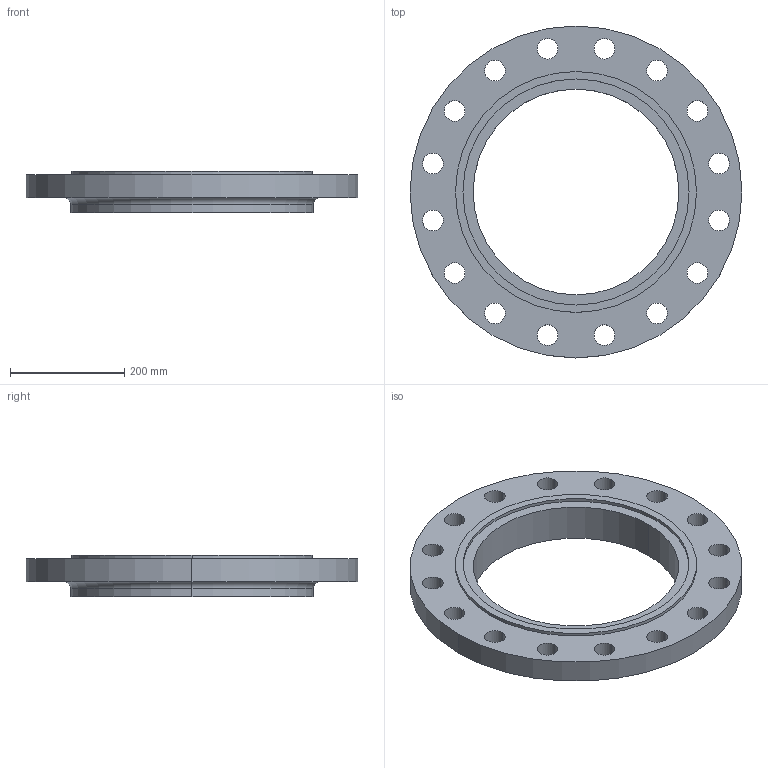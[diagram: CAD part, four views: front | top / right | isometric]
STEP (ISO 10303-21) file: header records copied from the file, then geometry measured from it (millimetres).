
FILE_DESCRIPTION (( 'STEP AP214' ), '1' );
FILE_NAME ('PN40 DN350 Type 12 - Type C Face.STEP', '2019-01-05T21:51:26', ( '' ), ( '' ), 'SwSTEP 2.0', 'SolidWorks 2019', '' );
FILE_SCHEMA (( 'AUTOMOTIVE_DESIGN' ));
Length unit declared in the file: millimetre
Products named in the file (1): PN40 DN350 Type 12 - Type C Face
Bounding box: 580 x 580 x 72 mm (x, y, z)
Volume: 7095171.5 mm3; surface area: 556958 mm2
Topology: 1 solids, 1 shells, 49 faces, 130 edges, 86 vertices
Faces by surface type: cylinder 42, plane 5, torus 2
Entity records: 1678 total; most frequent: DIRECTION 318, CARTESIAN_POINT 266, ORIENTED_EDGE 260, AXIS2_PLACEMENT_3D 138, EDGE_CURVE 130, CIRCLE 88, VERTEX_POINT 86, EDGE_LOOP 86
